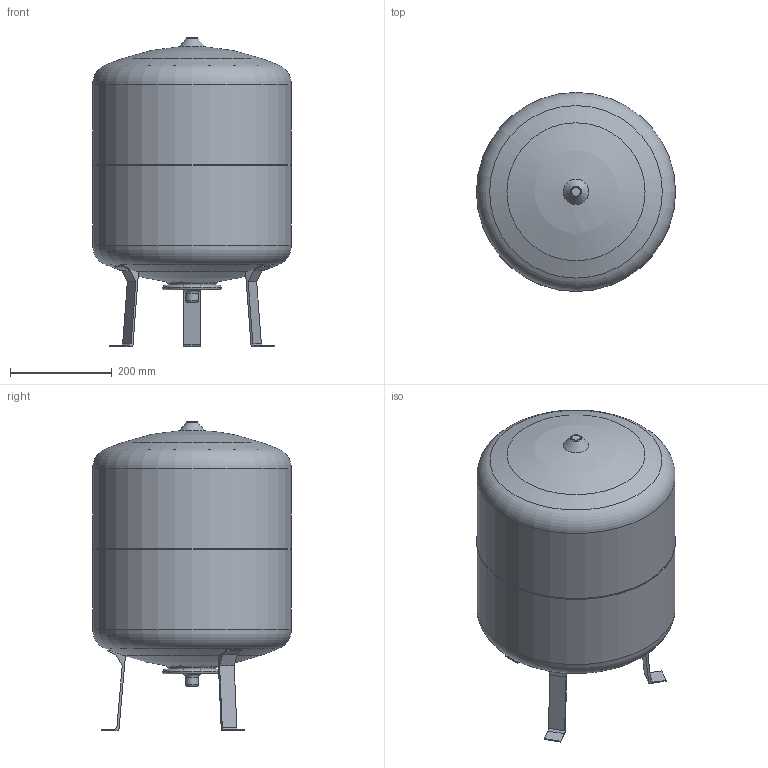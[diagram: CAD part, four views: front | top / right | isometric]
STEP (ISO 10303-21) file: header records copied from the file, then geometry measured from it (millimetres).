
FILE_DESCRIPTION(('STEP AP203'), '1');
FILE_NAME('306518.004-VT.A.R.050050', '2024-08-19T12:12:41', ('IT'), ('VESTA'), 'C3D Converter', 'C3D Toolkit', '');
FILE_SCHEMA(('CONFIG_CONTROL_DESIGN'));
Length unit declared in the file: millimetre
Bounding box: 390.8 x 390.8 x 606.53 mm (x, y, z)
Volume: 49693242.9 mm3; surface area: 747081.6 mm2
Topology: 1 solids, 1 shells, 84 faces, 243 edges, 168 vertices
Faces by surface type: plane 48, torus 20, cylinder 11, cone 3, sphere 2
Full cylindrical faces by diameter (mm): 16 x1, 21.5 x1, 25.5 x1, 99.1 x1, 114 x1, 390 x2, 390.8 x1
Entity records: 3344 total; most frequent: CARTESIAN_POINT 1135, DIRECTION 467, ORIENTED_EDGE 420, EDGE_CURVE 210, AXIS2_PLACEMENT_3D 184, VERTEX_POINT 168, FACE_BOUND 124, EDGE_LOOP 124
